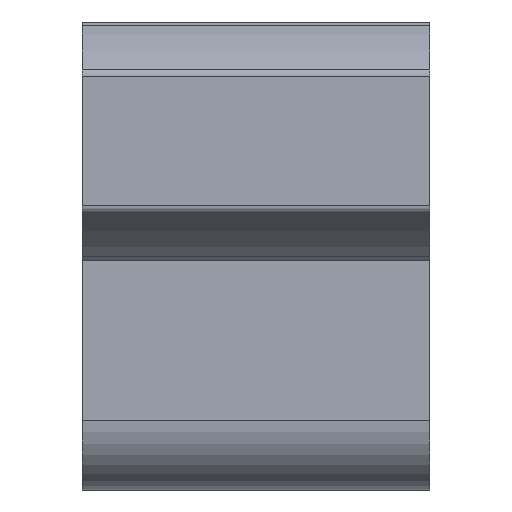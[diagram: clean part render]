
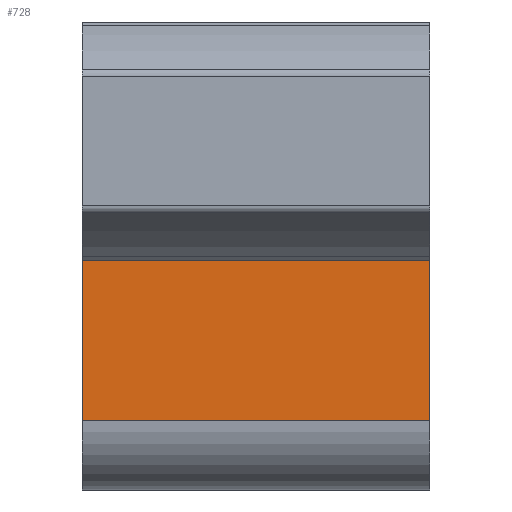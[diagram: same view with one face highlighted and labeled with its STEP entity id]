
A CAD part, left-side view. The second image highlights one B-rep face of the part: STEP entity #728.
In plain terms, the highlighted planar face has unit normal (-1, 0, 0).
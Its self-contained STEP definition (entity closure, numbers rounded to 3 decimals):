
#728=ADVANCED_FACE('',(#1449),#1450,.T.);
#1449=FACE_OUTER_BOUND('',#2164,.T.);
#1450=PLANE('',#2165);
#2164=EDGE_LOOP('',(#4201,#4202,#4203,#4204));
#2165=AXIS2_PLACEMENT_3D('',#4205,#4206,#4207);
#4201=ORIENTED_EDGE('',*,*,#5236,.T.);
#4202=ORIENTED_EDGE('',*,*,#5379,.F.);
#4203=ORIENTED_EDGE('',*,*,#5380,.T.);
#4204=ORIENTED_EDGE('',*,*,#5376,.T.);
#4205=CARTESIAN_POINT('',(5.,-10.0,-10.552));
#4206=DIRECTION('',(-1.0,0.0,0.0));
#4207=DIRECTION('',(0.0,0.0,1.0));
#5236=EDGE_CURVE('',#6533,#6531,#6534,.T.);
#5376=EDGE_CURVE('',#6741,#6533,#6742,.T.);
#5379=EDGE_CURVE('',#6745,#6531,#6746,.T.);
#5380=EDGE_CURVE('',#6745,#6741,#6747,.T.);
#6531=VERTEX_POINT('',#8251);
#6533=VERTEX_POINT('',#8253);
#6534=LINE('',#8254,#8255);
#6741=VERTEX_POINT('',#8525);
#6742=LINE('',#8526,#8527);
#6745=VERTEX_POINT('',#8530);
#6746=LINE('',#8531,#8532);
#6747=LINE('',#8533,#8534);
#8251=CARTESIAN_POINT('',(5.,10.0,-16.052));
#8253=CARTESIAN_POINT('',(5.,10.0,-5.052));
#8254=CARTESIAN_POINT('',(5.,10.0,-16.052));
#8255=VECTOR('',#9564,1.0);
#8525=CARTESIAN_POINT('',(5.,-10.0,-5.052));
#8526=CARTESIAN_POINT('',(5.,-10.0,-5.052));
#8527=VECTOR('',#9748,1.0);
#8530=CARTESIAN_POINT('',(5.,-10.0,-16.052));
#8531=CARTESIAN_POINT('',(5.,-10.0,-16.052));
#8532=VECTOR('',#9752,1.0);
#8533=CARTESIAN_POINT('',(5.,-10.0,-16.052));
#8534=VECTOR('',#9753,1.0);
#9564=DIRECTION('',(0.0,-0.0,-1.0));
#9748=DIRECTION('',(0.0,1.0,0.0));
#9752=DIRECTION('',(0.0,1.0,0.0));
#9753=DIRECTION('',(0.0,0.0,1.0));
